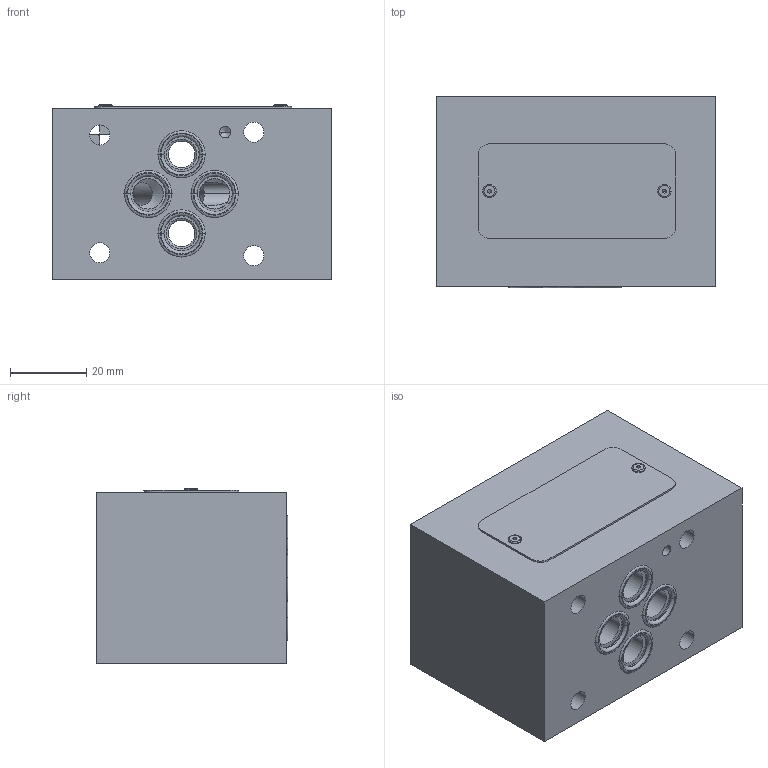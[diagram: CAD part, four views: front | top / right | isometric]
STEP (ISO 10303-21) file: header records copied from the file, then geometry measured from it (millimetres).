
FILE_DESCRIPTION((''),'2;1');
FILE_NAME('1000065302_ASM','2023-10-12T',('l.soukupova'),(''),'PRO/ENGINEER BY PARAMETRIC TECHNOLOGY CORPORATION, 2015440','PRO/ENGINEER BY PARAMETRIC TECHNOLOGY CORPORATION, 2015440','');
FILE_SCHEMA(('AUTOMOTIVE_DESIGN { 1 0 10303 214 1 1 1 1 }'));
Length unit declared in the file: millimetre
Products named in the file (5): 30677701; RD_LABEL_25X52_159703; AF_1932_16485; ORAR00012_201524; 1000065302_ASM
Assembly tree (8 placements, depth 2):
  1000065302_ASM
    30677701
    RD_LABEL_25X52_159703
    AF_1932_16485  x2
    ORAR00012_201524  x4
Bounding box: 73.5 x 50.38 x 46 mm (x, y, z)
Volume: 146393.1 mm3; surface area: 32134.6 mm2
Topology: 8 solids, 11 shells, 195 faces, 607 edges, 509 vertices
Faces by surface type: cylinder 94, torus 36, plane 34, cone 31
Entity records: 9136 total; most frequent: CARTESIAN_POINT 1993, DIRECTION 993, ORIENTED_EDGE 684, PRESENTATION_STYLE_ASSIGNMENT 613, STYLED_ITEM 539, CURVE_STYLE 533, AXIS2_PLACEMENT_3D 379, EDGE_CURVE 348
